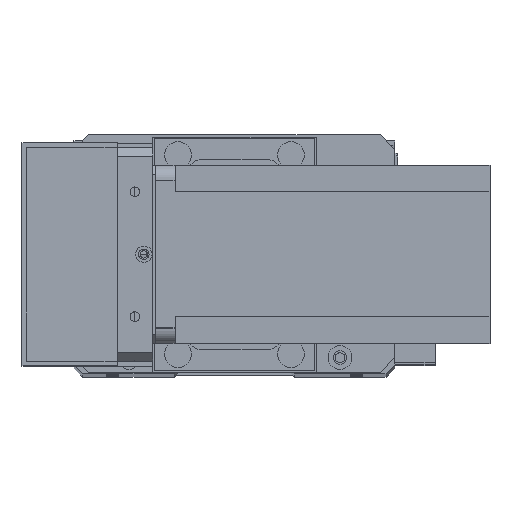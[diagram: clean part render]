
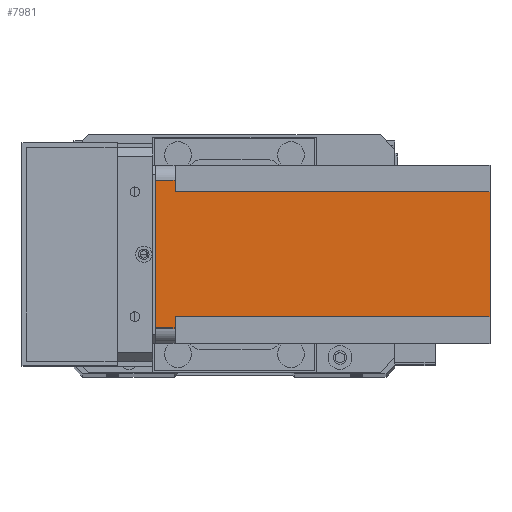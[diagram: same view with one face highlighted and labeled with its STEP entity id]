
A CAD part, top view. The second image highlights one B-rep face of the part: STEP entity #7981.
In plain terms, the highlighted planar face has unit normal (0, 0, 1) as drawn and (1, 0, 0) by its records, which use the part's own axes.
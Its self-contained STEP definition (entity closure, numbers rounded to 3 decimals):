
#351 = DIRECTION ( 'NONE',  ( 0., 1., 0. ) ) ;
#358 = CARTESIAN_POINT ( 'NONE',  ( 60., 5., -6.5 ) ) ;
#893 = ORIENTED_EDGE ( 'NONE', *, *, #17574, .T. ) ;
#1296 = EDGE_CURVE ( 'NONE', #20796, #21972, #16487, .T. ) ;
#1968 = CARTESIAN_POINT ( 'NONE',  ( 60., 5., -112.5 ) ) ;
#2335 = FACE_OUTER_BOUND ( 'NONE', #3275, .T. ) ;
#2386 = CARTESIAN_POINT ( 'NONE',  ( 60., 9., -112.5 ) ) ;
#3275 = EDGE_LOOP ( 'NONE', ( #15281, #24552, #10217, #893, #19314, #29486, #26631, #27722 ) ) ;
#3391 = EDGE_CURVE ( 'NONE', #14525, #22412, #16435, .T. ) ;
#4388 = VECTOR ( 'NONE', #13683, 1000. ) ;
#5079 = EDGE_CURVE ( 'NONE', #27895, #14525, #24501, .T. ) ;
#5313 = VECTOR ( 'NONE', #11313, 1000. ) ;
#5323 = CARTESIAN_POINT ( 'NONE',  ( 60., 9., -112.5 ) ) ;
#6072 = CARTESIAN_POINT ( 'NONE',  ( 60., 0., -112.5 ) ) ;
#6334 = VECTOR ( 'NONE', #11146, 1000. ) ;
#6568 = VECTOR ( 'NONE', #23504, 1000. ) ;
#6761 = CARTESIAN_POINT ( 'NONE',  ( 60., 55., -6.5 ) ) ;
#7767 = EDGE_CURVE ( 'NONE', #21269, #20796, #19425, .T. ) ;
#7981 = ADVANCED_FACE ( 'NONE', ( #2335 ), #21986, .T. ) ;
#8359 = DIRECTION ( 'NONE',  ( 1., 0., 0. ) ) ;
#8524 = CARTESIAN_POINT ( 'NONE',  ( 60., 55., 0. ) ) ;
#9027 = CARTESIAN_POINT ( 'NONE',  ( 60., 0., -112.5 ) ) ;
#9052 = VECTOR ( 'NONE', #17880, 1000. ) ;
#9152 = VERTEX_POINT ( 'NONE', #16589 ) ;
#9708 = EDGE_CURVE ( 'NONE', #9152, #24732, #11889, .T. ) ;
#10007 = CARTESIAN_POINT ( 'NONE',  ( 60., 55., -112.5 ) ) ;
#10217 = ORIENTED_EDGE ( 'NONE', *, *, #9708, .F. ) ;
#10351 = VECTOR ( 'NONE', #18141, 1000. ) ;
#10942 = CARTESIAN_POINT ( 'NONE',  ( 60., 51., -112.5 ) ) ;
#11050 = CARTESIAN_POINT ( 'NONE',  ( 60., 60., -6.5 ) ) ;
#11146 = DIRECTION ( 'NONE',  ( 0., -1., 0. ) ) ;
#11313 = DIRECTION ( 'NONE',  ( 0., 1., 0. ) ) ;
#11889 = LINE ( 'NONE', #23208, #12604 ) ;
#12604 = VECTOR ( 'NONE', #351, 1000. ) ;
#13403 = EDGE_CURVE ( 'NONE', #21269, #22412, #29492, .T. ) ;
#13683 = DIRECTION ( 'NONE',  ( 0., -1., 0. ) ) ;
#13925 = CARTESIAN_POINT ( 'NONE',  ( 60., 0., -6.5 ) ) ;
#14525 = VERTEX_POINT ( 'NONE', #27465 ) ;
#14761 = EDGE_CURVE ( 'NONE', #27895, #24732, #21985, .T. ) ;
#15281 = ORIENTED_EDGE ( 'NONE', *, *, #5079, .F. ) ;
#16030 = CARTESIAN_POINT ( 'NONE',  ( 60., 9., -6.5 ) ) ;
#16153 = AXIS2_PLACEMENT_3D ( 'NONE', #6072, #8359, #24283 ) ;
#16435 = LINE ( 'NONE', #18057, #10351 ) ;
#16487 = LINE ( 'NONE', #13925, #4388 ) ;
#16589 = CARTESIAN_POINT ( 'NONE',  ( 60., 5., 0. ) ) ;
#16808 = DIRECTION ( 'NONE',  ( 0., 0., 1. ) ) ;
#17574 = EDGE_CURVE ( 'NONE', #9152, #21972, #19737, .T. ) ;
#17880 = DIRECTION ( 'NONE',  ( 0., 0., -1. ) ) ;
#18057 = CARTESIAN_POINT ( 'NONE',  ( 60., 51., -112.5 ) ) ;
#18141 = DIRECTION ( 'NONE',  ( 0., 0., -1. ) ) ;
#19314 = ORIENTED_EDGE ( 'NONE', *, *, #1296, .F. ) ;
#19425 = LINE ( 'NONE', #5323, #6568 ) ;
#19737 = LINE ( 'NONE', #1968, #9052 ) ;
#20796 = VERTEX_POINT ( 'NONE', #16030 ) ;
#21269 = VERTEX_POINT ( 'NONE', #2386 ) ;
#21972 = VERTEX_POINT ( 'NONE', #358 ) ;
#21985 = LINE ( 'NONE', #10007, #27355 ) ;
#21986 = PLANE ( 'NONE',  #16153 ) ;
#22412 = VERTEX_POINT ( 'NONE', #10942 ) ;
#23208 = CARTESIAN_POINT ( 'NONE',  ( 60., 0., 0. ) ) ;
#23504 = DIRECTION ( 'NONE',  ( 0., 0., 1. ) ) ;
#24283 = DIRECTION ( 'NONE',  ( 0., 1., 0. ) ) ;
#24501 = LINE ( 'NONE', #11050, #6334 ) ;
#24552 = ORIENTED_EDGE ( 'NONE', *, *, #14761, .T. ) ;
#24732 = VERTEX_POINT ( 'NONE', #8524 ) ;
#26631 = ORIENTED_EDGE ( 'NONE', *, *, #13403, .T. ) ;
#27355 = VECTOR ( 'NONE', #16808, 1000. ) ;
#27465 = CARTESIAN_POINT ( 'NONE',  ( 60., 51., -6.5 ) ) ;
#27722 = ORIENTED_EDGE ( 'NONE', *, *, #3391, .F. ) ;
#27895 = VERTEX_POINT ( 'NONE', #6761 ) ;
#29486 = ORIENTED_EDGE ( 'NONE', *, *, #7767, .F. ) ;
#29492 = LINE ( 'NONE', #9027, #5313 ) ;
